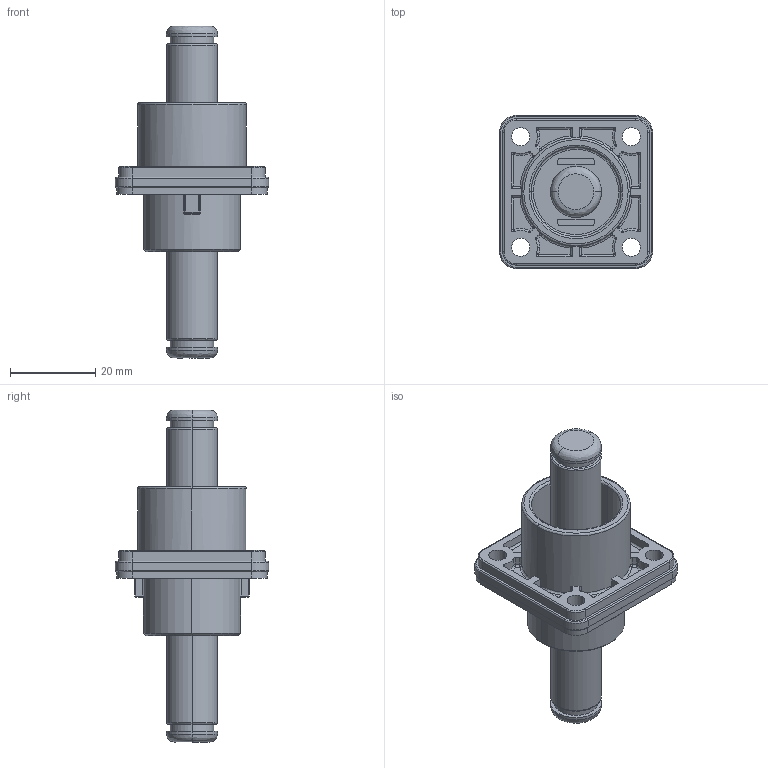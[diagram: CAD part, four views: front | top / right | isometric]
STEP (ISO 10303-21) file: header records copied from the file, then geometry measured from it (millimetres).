
FILE_DESCRIPTION (( 'STEP AP214' ), '1' );
FILE_NAME ('RL9120-30X-F1.STEP', '2017-01-12T01:06:33', ( '' ), ( '' ), 'SwSTEP 2.0', 'SolidWorks 2014', '' );
FILE_SCHEMA (( 'AUTOMOTIVE_DESIGN' ));
Length unit declared in the file: millimetre
Products named in the file (1): RL9120-30X-F1
Bounding box: 36 x 36 x 78 mm (x, y, z)
Volume: 19679.8 mm3; surface area: 10253.9 mm2
Topology: 1 solids, 1 shells, 317 faces, 746 edges, 416 vertices
Faces by surface type: cylinder 142, bspline 94, plane 79, cone 2
Entity records: 11063 total; most frequent: CARTESIAN_POINT 4078, DIRECTION 1428, ORIENTED_EDGE 1428, EDGE_CURVE 714, AXIS2_PLACEMENT_3D 564, VERTEX_POINT 416, EDGE_LOOP 342, CIRCLE 340
